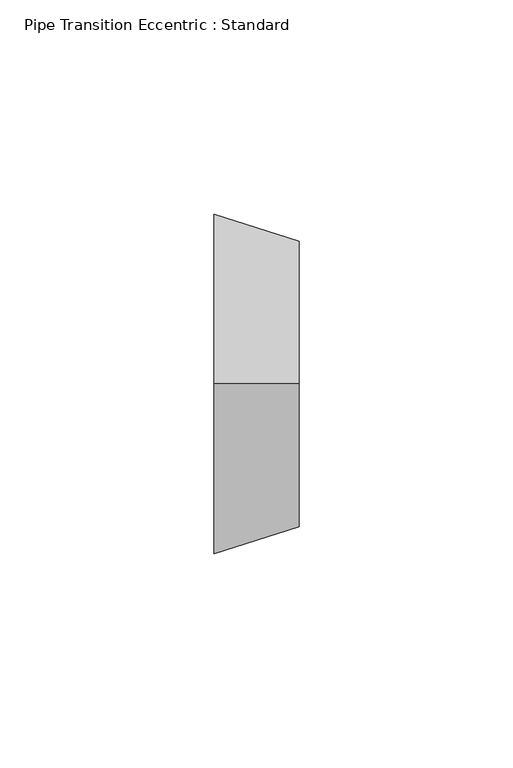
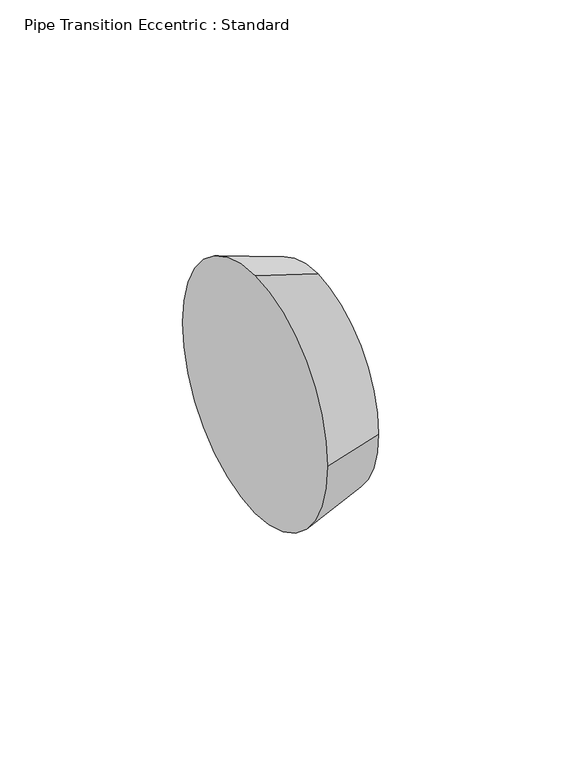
"""IFC4 building model written with IfcOpenShell, lengths in millimetres: pipe fitting geometry, Pipe Transition Eccentric : Standard."""

import ifcopenshell
import ifcopenshell.guid

model = None  # the IFC model being written
_history = None  # IfcOwnerHistory: only IFC2X3 demands one
_inside = {}  # id of a spatial element -> (the spatial element, [elements in it])
_under = {}  # id of a project, library or spatial element -> (it, [spatial elements below it])
_declared = {}  # id of a project -> (the project, [libraries it declares])
_typed = {}  # id of a type object -> (the type object, [elements of that type])
_made_of = {}  # id of a material, layer set ... -> (it, [elements and type objects made of it])


def new_model(schema):
    """Start an empty IFC model of exactly this schema.

    Asked for "IFC4X3", IfcOpenShell would pick the latest addendum, in which some entities
    have other attributes; the version numbers below select the first issue.
    IFC2X3 requires an IfcOwnerHistory on every rooted entity: one is made here for all.
    """
    global model, _history
    if schema == "IFC4X3":
        model = ifcopenshell.file(schema_version=(4, 3, 0, 0))
    else:
        model = ifcopenshell.file(schema=schema)
    _inside.clear()
    _under.clear()
    _declared.clear()
    _typed.clear()
    _made_of.clear()
    _history = None
    if model.schema == "IFC2X3":
        org = make("IfcOrganization", Name="unknown")
        user = make(
            "IfcPersonAndOrganization",
            ThePerson=make("IfcPerson", FamilyName="unknown"),
            TheOrganization=org,
        )
        app = make(
            "IfcApplication",
            ApplicationDeveloper=org,
            Version="unknown",
            ApplicationFullName="unknown",
            ApplicationIdentifier="unknown",
        )
        _history = make(
            "IfcOwnerHistory",
            OwningUser=user,
            OwningApplication=app,
            ChangeAction="ADDED",
            CreationDate=0,
        )
    return model


def make(cls, **values):
    """One entity of the class cls with the attributes given. An attribute that is None is left unset."""
    return model.create_entity(
        cls, **{name: value for name, value in values.items() if value is not None}
    )


def rooted(cls, **values):
    """An entity with a GlobalId (a new one), such as an element, a storey or a relation."""
    return make(cls, GlobalId=ifcopenshell.guid.new(), OwnerHistory=_history, **values)


def si_unit(unit_type, name, prefix=None):
    """IfcSIUnit, for example si_unit("LENGTHUNIT", "METRE", prefix="MILLI")."""
    return make("IfcSIUnit", UnitType=unit_type, Prefix=prefix, Name=name)


def assignment(units):
    """IfcUnitAssignment: the units of a project."""
    return None if units is None else make("IfcUnitAssignment", Units=units)


def point(xyz):
    """IfcCartesianPoint."""
    return None if xyz is None else make("IfcCartesianPoint", Coordinates=xyz)


def direction(xyz):
    """IfcDirection."""
    return None if xyz is None else make("IfcDirection", DirectionRatios=xyz)


def frame(location, z_axis=None, x_axis=None):
    """IfcAxis2Placement3D, a coordinate frame: its origin and axes. An axis left out is left unset."""
    return make(
        "IfcAxis2Placement3D",
        Location=point(location),
        Axis=direction(z_axis),
        RefDirection=direction(x_axis),
    )


def origin():
    """The frame at (0, 0, 0) with its axes left unset."""
    return frame((0.0, 0.0, 0.0))


def place(relative_to, where):
    """IfcLocalPlacement: puts the frame where relative to a parent placement (None: the world)."""
    return make(
        "IfcLocalPlacement", PlacementRelTo=relative_to, RelativePlacement=where
    )


def context(
    kind, dimensions, precision=None, world=None, true_north=None, identifier=None
):
    """IfcGeometricRepresentationContext, for example the 3D "Model" context."""
    return make(
        "IfcGeometricRepresentationContext",
        ContextIdentifier=identifier,
        ContextType=kind,
        CoordinateSpaceDimension=dimensions,
        Precision=precision,
        WorldCoordinateSystem=world,
        TrueNorth=true_north,
    )


def project(units=None, contexts=None):
    """IfcProject with its units and contexts."""
    return rooted(
        "IfcProject",
        Name="project",
        RepresentationContexts=contexts,
        UnitsInContext=assignment(units),
    )


def spatial(cls, under=None, at=None, **own):
    """A site, building, storey or space (cls), placed at a placement, below another one or the project."""
    s = rooted(cls, ObjectPlacement=at, **own)
    if under is not None:
        _under.setdefault(under.id(), (under, []))[1].append(s)
    return s


def polyline(points):
    """IfcPolyline through the points."""
    return make("IfcPolyline", Points=[point(p) for p in points])


def circle_curve(where, radius):
    """IfcCircle in the frame where."""
    return make("IfcCircle", Position=where, Radius=radius)


def shape(context_of_items, identifier, shape_type, items):
    """IfcShapeRepresentation: the items that make up one representation, for example the "Body"."""
    return make(
        "IfcShapeRepresentation",
        ContextOfItems=context_of_items,
        RepresentationIdentifier=identifier,
        RepresentationType=shape_type,
        Items=items,
    )


def source(mapping_origin, context_of_items, identifier, shape_type, items):
    """IfcRepresentationMap: a shape defined once, which mapped items show again and again."""
    return make(
        "IfcRepresentationMap",
        MappingOrigin=mapping_origin,
        MappedRepresentation=shape(context_of_items, identifier, shape_type, items),
    )


def transform(
    local_origin,
    x_axis=None,
    y_axis=None,
    z_axis=None,
    scale=None,
    scale2=None,
    scale3=None,
    uniform=True,
):
    """IfcCartesianTransformationOperator3D, or its non-uniform kind. x_axis, y_axis, z_axis: its Axis1, 2, 3."""
    if uniform:
        return make(
            "IfcCartesianTransformationOperator3D",
            Axis1=direction(x_axis),
            Axis2=direction(y_axis),
            LocalOrigin=point(local_origin),
            Scale=scale,
            Axis3=direction(z_axis),
        )
    return make(
        "IfcCartesianTransformationOperator3DnonUniform",
        Axis1=direction(x_axis),
        Axis2=direction(y_axis),
        LocalOrigin=point(local_origin),
        Scale=scale,
        Axis3=direction(z_axis),
        Scale2=scale2,
        Scale3=scale3,
    )


def mapped(mapping_source, mapping_target):
    """IfcMappedItem: shows the shape of a source again, moved by a transform."""
    return make(
        "IfcMappedItem", MappingSource=mapping_source, MappingTarget=mapping_target
    )


def made_of(thing, what):
    """Note that an element or type object is made of a material, layer set ...; save() writes the relation."""
    if what is not None:
        _made_of.setdefault(what.id(), (what, []))[1].append(thing)
    return thing


def element(
    cls,
    number,
    at=None,
    inside=None,
    cuts=None,
    type_object=None,
    material=None,
    context=None,
    identifier="Body",
    shape_type=None,
    held_by="IfcProductDefinitionShape",
    body=None,
    shapes=None,
    **own,
):
    """One element of the class cls, such as IfcWall. Its Tag is "e" and its number.

    at: its placement. inside: the storey or other place that contains it. cuts: it is an
    opening in that element (IfcRelVoidsElement). A single representation is given by context,
    identifier, shape_type and body (its items); several are given by shapes. held_by: the class
    of the entity that holds the representations. save() writes the other relations.
    """
    e = rooted(cls, Tag="e%d" % number, ObjectPlacement=at, **own)
    if body is not None:
        shapes = [shape(context, identifier, shape_type, body)]
    if shapes is not None:
        e.Representation = make(held_by, Representations=shapes)
    if inside is not None:
        _inside.setdefault(inside.id(), (inside, []))[1].append(e)
    if cuts is not None:
        rooted(
            "IfcRelVoidsElement", RelatingBuildingElement=cuts, RelatedOpeningElement=e
        )
    if type_object is not None:
        _typed.setdefault(type_object.id(), (type_object, []))[1].append(e)
    return made_of(e, material)


def aggregate(whole, parts):
    """IfcRelAggregates: a whole, such as a stair, and the parts it consists of."""
    return rooted("IfcRelAggregates", RelatingObject=whole, RelatedObjects=parts)


def save(model, path):
    """Write the relations noted so far, then the file.

    IfcRelAggregates (storeys below a building ...), IfcRelContainedInSpatialStructure (elements
    in a storey), IfcRelDefinesByType, IfcRelAssociatesMaterial and IfcRelDeclares: one each for
    every whole, place, type object, material and project.
    """
    for whole, parts in _under.values():
        aggregate(whole, parts)
    for where, things in _inside.values():
        rooted(
            "IfcRelContainedInSpatialStructure",
            RelatedElements=things,
            RelatingStructure=where,
        )
    for kind, things in _typed.values():
        rooted("IfcRelDefinesByType", RelatedObjects=things, RelatingType=kind)
    for what, things in _made_of.values():
        rooted("IfcRelAssociatesMaterial", RelatedObjects=things, RelatingMaterial=what)
    for by, libraries in _declared.values():
        rooted("IfcRelDeclares", RelatingContext=by, RelatedDefinitions=libraries)
    model.write(path)


def plane_surface(at):
    """IfcPlane: the flat surface through the origin of the frame at, square to its z axis."""
    return make("IfcPlane", Position=at)


def revolved_surface(curve, axis_point, axis_direction):
    """IfcSurfaceOfRevolution: the curve turned about the line through axis_point along axis_direction."""
    return make(
        "IfcSurfaceOfRevolution",
        SweptCurve=make("IfcArbitraryOpenProfileDef", ProfileType="CURVE", Curve=curve),
        AxisPosition=make("IfcAxis1Placement", Location=point(axis_point), Axis=direction(axis_direction)),
    )


def advanced_brep(points, edges, surfaces, faces):
    """IfcAdvancedBrep: a solid bounded by faces that lie on surfaces and meet in shared edges.

    An edge is (start, end): straight between two places in points (the first is 0);
    or (start, end, curve); or (start, end, curve, False) where it runs against its curve.
    A face is (place in surfaces, loops), or (place, loops, False) where it looks against
    its surface's normal. A loop lists edges by number (the first is 1), with a minus sign
    where the edge is run from its end to its start. The first loop is the outer one.
    """
    corners = [point(p) for p in points]
    vertices = [make("IfcVertexPoint", VertexGeometry=c) for c in corners]
    made = []
    for start, end, *more in edges:
        made.append(
            make(
                "IfcEdgeCurve",
                EdgeStart=vertices[start],
                EdgeEnd=vertices[end],
                EdgeGeometry=more[0] if more else make("IfcPolyline", Points=[corners[start], corners[end]]),
                SameSense=more[1] if len(more) > 1 else True,
            )
        )
    hull = []
    for where, loops, *sense in faces:
        bounds = []
        for j, loop in enumerate(loops):
            ring = [make("IfcOrientedEdge", EdgeElement=made[abs(k) - 1], Orientation=k > 0) for k in loop]
            bounds.append(
                make(
                    "IfcFaceOuterBound" if j == 0 else "IfcFaceBound",
                    Bound=make("IfcEdgeLoop", EdgeList=ring),
                    Orientation=True,
                )
            )
        hull.append(make("IfcAdvancedFace", Bounds=bounds, FaceSurface=surfaces[where], SameSense=sense[0] if sense else True))
    return make("IfcAdvancedBrep", Outer=make("IfcClosedShell", CfsFaces=hull))


def pipe_transition_eccentric_standard_c50400a5(model_context):
    return source(origin(), model_context, "Body", "AdvancedBrep", [
        advanced_brep(
        [(19.84375, 0.0, 33.3375), (19.84375, -33.3375, 0.0), (19.84375, 0.0, -33.3375), (19.84375, 33.3375, 0.0), (0.0, 0.0, 39.6875), (0.0, 39.6875, 0.0), (0.0, 0.0, -39.6875), (0.0, -39.6875, 0.0)],
        [
            (0, 1, circle_curve(frame((19.84375, 0.0, 0.0), z_axis=(1.0, 0.0, 0.0), x_axis=(0.0, 0.0, 1.0)), 33.3375)),
            (1, 2, circle_curve(frame((19.84375, 0.0, 0.0), z_axis=(1.0, 0.0, 0.0), x_axis=(0.0, -1.0, 0.0)), 33.3375)),
            (2, 3, circle_curve(frame((19.84375, 0.0, 0.0), z_axis=(1.0, 0.0, 0.0), x_axis=(0.0, 0.0, -1.0)), 33.3375)),
            (3, 0, circle_curve(frame((19.84375, 0.0, 0.0), z_axis=(1.0, 0.0, 0.0), x_axis=(0.0, 1.0, 0.0)), 33.3375)),
            (4, 5, circle_curve(frame((0.0, 0.0, 0.0), z_axis=(-1.0, 0.0, 0.0), x_axis=(0.0, 1.0, 0.0)), 39.6875)),
            (5, 6, circle_curve(frame((0.0, 0.0, 0.0), z_axis=(-1.0, 0.0, 0.0), x_axis=(0.0, 0.0, -1.0)), 39.6875)),
            (6, 7, circle_curve(frame((0.0, 0.0, 0.0), z_axis=(-1.0, 0.0, 0.0), x_axis=(0.0, -1.0, 0.0)), 39.6875)),
            (7, 4, circle_curve(frame((0.0, 0.0, 0.0), z_axis=(-1.0, 0.0, 0.0), x_axis=(0.0, 0.0, 1.0)), 39.6875)),
            (7, 1),
            (0, 4),
            (6, 2),
            (5, 3),
        ],
        [
            plane_surface(frame((19.84375, 0.0, 0.0), z_axis=(1.0, 0.0, 0.0), x_axis=(0.0, -1.0, 0.0))),
            plane_surface(frame((0.0, 0.0, 0.0), z_axis=(-1.0, 0.0, 0.0), x_axis=(0.0, -1.0, 0.0))),
            revolved_surface(polyline([(19.84375, 0.0, 33.3375), (0.0, 0.0, 39.6875)]), (124.0234375, 0.0, 0.0), (-1.0, 0.0, 0.0)),
            revolved_surface(polyline([(19.84375, -33.3375, 0.0), (0.0, -39.6875, 0.0)]), (124.0234375, 0.0, 0.0), (-1.0, 0.0, 0.0)),
            revolved_surface(polyline([(19.84375, 0.0, -33.3375), (0.0, 0.0, -39.6875)]), (124.0234375, 0.0, 0.0), (-1.0, 0.0, 0.0)),
            revolved_surface(polyline([(19.84375, 33.3375, 0.0), (0.0, 39.6875, 0.0)]), (124.0234375, 0.0, 0.0), (-1.0, 0.0, 0.0)),
        ],
        [
            (0, [[1, 2, 3, 4]]),
            (1, [[5, 6, 7, 8]]),
            (2, [[-8, 9, -1, 10]]),
            (3, [[-7, 11, -2, -9]]),
            (4, [[-6, 12, -3, -11]]),
            (5, [[-5, -10, -4, -12]]),
        ],
    ),
        advanced_brep(
        [(19.84375, 0.0, 33.3375), (19.84375, -33.3375, 0.0), (19.84375, 0.0, -33.3375), (19.84375, 33.3375, 0.0), (0.0, 0.0, 39.6875), (0.0, 39.6875, 0.0), (0.0, 0.0, -39.6875), (0.0, -39.6875, 0.0)],
        [
            (0, 1, circle_curve(frame((19.84375, 0.0, 0.0), z_axis=(1.0, 0.0, 0.0), x_axis=(0.0, 0.0, 1.0)), 33.3375)),
            (1, 2, circle_curve(frame((19.84375, 0.0, 0.0), z_axis=(1.0, 0.0, 0.0), x_axis=(0.0, -1.0, 0.0)), 33.3375)),
            (2, 3, circle_curve(frame((19.84375, 0.0, 0.0), z_axis=(1.0, 0.0, 0.0), x_axis=(0.0, 0.0, -1.0)), 33.3375)),
            (3, 0, circle_curve(frame((19.84375, 0.0, 0.0), z_axis=(1.0, 0.0, 0.0), x_axis=(0.0, 1.0, 0.0)), 33.3375)),
            (4, 5, circle_curve(frame((0.0, 0.0, 0.0), z_axis=(-1.0, 0.0, 0.0), x_axis=(0.0, 1.0, 0.0)), 39.6875)),
            (5, 6, circle_curve(frame((0.0, 0.0, 0.0), z_axis=(-1.0, 0.0, 0.0), x_axis=(0.0, 0.0, -1.0)), 39.6875)),
            (6, 7, circle_curve(frame((0.0, 0.0, 0.0), z_axis=(-1.0, 0.0, 0.0), x_axis=(0.0, -1.0, 0.0)), 39.6875)),
            (7, 4, circle_curve(frame((0.0, 0.0, 0.0), z_axis=(-1.0, 0.0, 0.0), x_axis=(0.0, 0.0, 1.0)), 39.6875)),
            (7, 1),
            (0, 4),
            (6, 2),
            (5, 3),
        ],
        [
            plane_surface(frame((19.84375, 0.0, 0.0), z_axis=(1.0, 0.0, 0.0), x_axis=(0.0, -1.0, 0.0))),
            plane_surface(frame((0.0, 0.0, 0.0), z_axis=(-1.0, 0.0, 0.0), x_axis=(0.0, -1.0, 0.0))),
            revolved_surface(polyline([(19.84375, 0.0, 33.3375), (0.0, 0.0, 39.6875)]), (124.0234375, 0.0, 0.0), (-1.0, 0.0, 0.0)),
            revolved_surface(polyline([(19.84375, -33.3375, 0.0), (0.0, -39.6875, 0.0)]), (124.0234375, 0.0, 0.0), (-1.0, 0.0, 0.0)),
            revolved_surface(polyline([(19.84375, 0.0, -33.3375), (0.0, 0.0, -39.6875)]), (124.0234375, 0.0, 0.0), (-1.0, 0.0, 0.0)),
            revolved_surface(polyline([(19.84375, 33.3375, 0.0), (0.0, 39.6875, 0.0)]), (124.0234375, 0.0, 0.0), (-1.0, 0.0, 0.0)),
        ],
        [
            (0, [[1, 2, 3, 4]]),
            (1, [[5, 6, 7, 8]]),
            (2, [[-8, 9, -1, 10]]),
            (3, [[-7, 11, -2, -9]]),
            (4, [[-6, 12, -3, -11]]),
            (5, [[-5, -10, -4, -12]]),
        ],
    ),
    ])


if __name__ == "__main__":
    model = new_model("IFC4")
    model_context = context("Model", 3, world=origin())
    ifc_project = project(units=[si_unit("LENGTHUNIT", "METRE", prefix="MILLI")], contexts=[model_context])
    site = spatial("IfcSite", under=ifc_project)
    building = spatial("IfcBuilding", under=site)
    placement = place(None, origin())
    pipe_transition_eccentric_standard_shape = pipe_transition_eccentric_standard_c50400a5(model_context)
    element("IfcPipeFitting", 1, ObjectType="Pipe Transition Eccentric : Standard", at=placement, inside=building, context=model_context, shape_type="MappedRepresentation", body=[
        mapped(pipe_transition_eccentric_standard_shape, transform((0.0, 0.0, 0.0), x_axis=(1.0, 0.0, 0.0), y_axis=(0.0, 1.0, 0.0), z_axis=(0.0, 0.0, 1.0))),
    ])
    save(model, "model.ifc")
